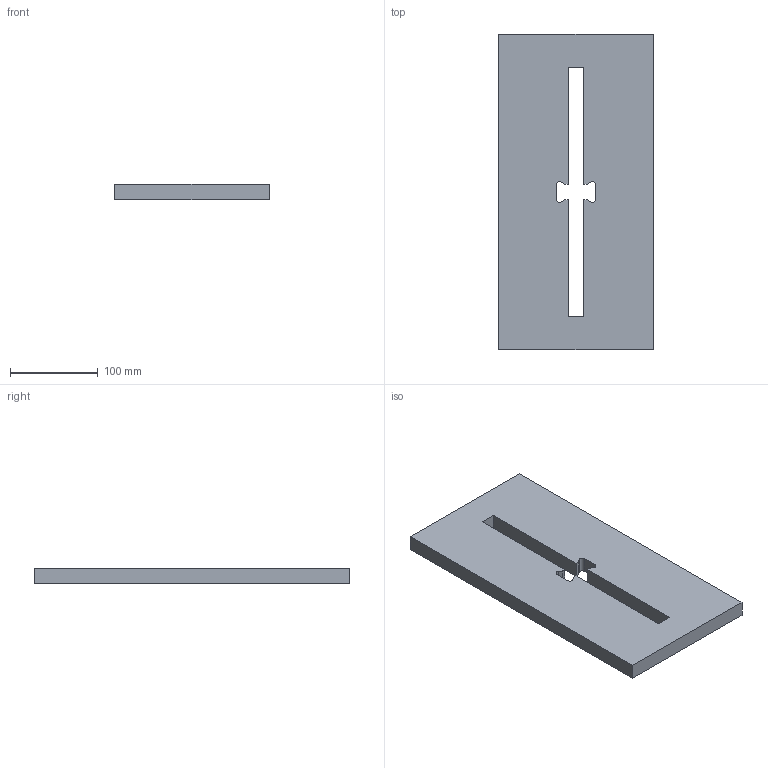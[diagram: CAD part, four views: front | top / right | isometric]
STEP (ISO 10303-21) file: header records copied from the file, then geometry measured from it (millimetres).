
FILE_DESCRIPTION (( 'STEP AP214' ), '1' );
FILE_NAME ('petite-plaque-rectangulaire-dessus.STEP', '2018-04-07T06:00:06', ( '' ), ( '' ), 'SwSTEP 2.0', 'SolidWorks 2017', '' );
FILE_SCHEMA (( 'AUTOMOTIVE_DESIGN' ));
Length unit declared in the file: millimetre
Products named in the file (1): petite-plaque-rectangulaire-dessus
Bounding box: 176 x 360 x 18 mm (x, y, z)
Volume: 1038327.4 mm3; surface area: 146701.4 mm2
Topology: 1 solids, 1 shells, 26 faces, 72 edges, 48 vertices
Faces by surface type: plane 22, cylinder 4
Entity records: 862 total; most frequent: CARTESIAN_POINT 147, ORIENTED_EDGE 144, DIRECTION 134, EDGE_CURVE 72, LINE 64, VECTOR 64, VERTEX_POINT 48, AXIS2_PLACEMENT_3D 35
